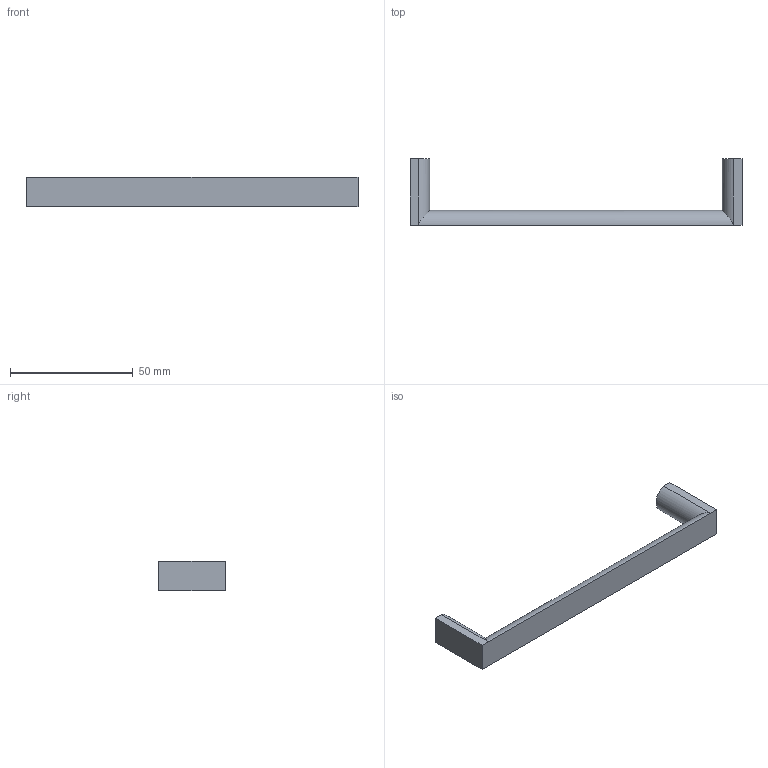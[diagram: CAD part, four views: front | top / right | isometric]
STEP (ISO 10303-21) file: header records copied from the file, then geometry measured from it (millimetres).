
FILE_DESCRIPTION( ( '' ), '1' );
FILE_NAME( 'C:/Documents and Settings/Sachin/Desktop/Sheet 10_1/stp/9995480.stp', '2013-10-22T08:39:08', ( '' ), ( '' ), ' ', ' ', ' ' );
FILE_SCHEMA( ( 'CONFIG_CONTROL_DESIGN' ) );
Length unit declared in the file: millimetre
Products named in the file (1): 1
Bounding box: 135 x 27 x 12 mm (x, y, z)
Volume: 10939.6 mm3; surface area: 6158.8 mm2
Topology: 1 solids, 1 shells, 18 faces, 38 edges, 24 vertices
Faces by surface type: plane 11, cylinder 7
Entity records: 602 total; most frequent: CARTESIAN_POINT 163, DIRECTION 84, ORIENTED_EDGE 76, EDGE_CURVE 38, AXIS2_PLACEMENT_3D 29, LINE 26, VECTOR 26, VERTEX_POINT 24
